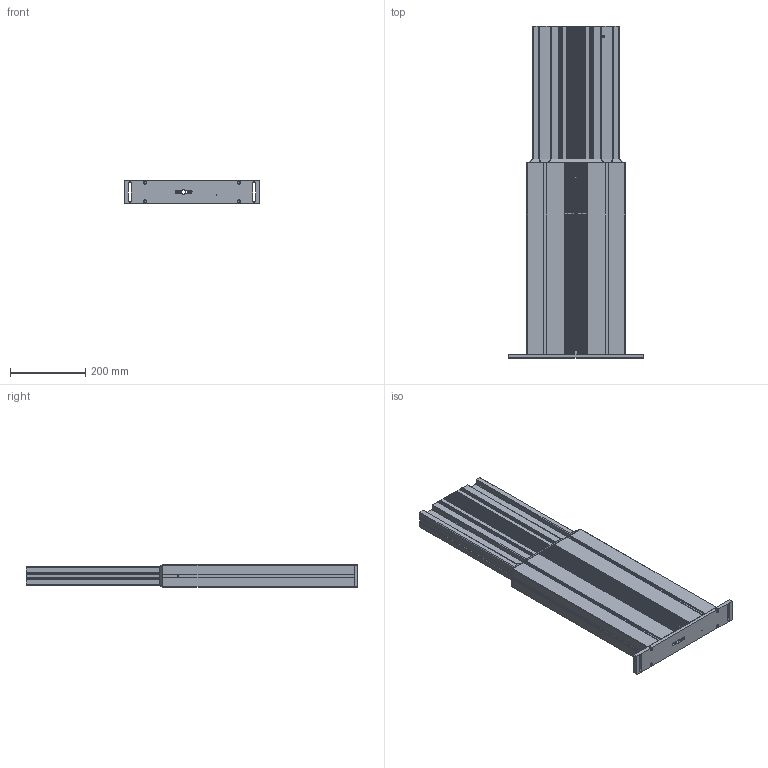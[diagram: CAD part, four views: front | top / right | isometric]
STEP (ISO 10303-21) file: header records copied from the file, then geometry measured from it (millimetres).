
FILE_DESCRIPTION(/* description */ ('Unknown'),/* implementation_level */ '2;1');
FILE_NAME(/* name */ '901.01111_01-ausgefahren',/* time_stamp */ '2026-07-01T14:15:25+02:00',/* author */ ('Unknown'),/* organization */ ('Unknown'),/* preprocessor_version */ 'ST-DEVELOPER v20',/* originating_system */ 'Solid Edge',/* authorisation */ 'Unknown');
FILE_SCHEMA (('AP242_MANAGED_MODEL_BASED_3D_ENGINEERING_MIM_LF { 1 0 10303 442 3 1 4 }','AUTOMOTIVE_DESIGN {1 0 10303 214 3 1 1}'));
Products named in the file (10): 901.01111; 126.00137; 119.00379; 119.00378; 142.00166; 124.00201_oa_0; 142.00241; 110.00116_oa_1; 115.00200_oa_2; 128.00090
Assembly tree (13 placements, depth 2):
  901.01111
    126.00137
    119.00379
    119.00378
    142.00166  x4
    124.00201_oa_0
    142.00241  x2
    110.00116_oa_1
    115.00200_oa_2
    128.00090
Bounding box: 360 x 880 x 60 mm (x, y, z)
Volume: 2730821.3 mm3; surface area: 1636507.8 mm2
Topology: 10 solids, 10 shells, 1809 faces, 5310 edges, 3537 vertices
Faces by surface type: plane 958, cylinder 830, torus 10, cone 7, bspline 4
Full cylindrical faces by diameter (mm): 2.459 x1, 3.242 x4, 3.4 x1, 4 x2, 5 x4, 5.5 x4, 7 x2, 8.5 x4, 8.7 x4, 30 x2
Entity records: 70493 total; most frequent: CARTESIAN_POINT 11087, ORIENTED_EDGE 10304, DIRECTION 10143, EDGE_CURVE 5152, VERTEX_POINT 3448, AXIS2_PLACEMENT_3D 3427, LINE 3289, VECTOR 3289
